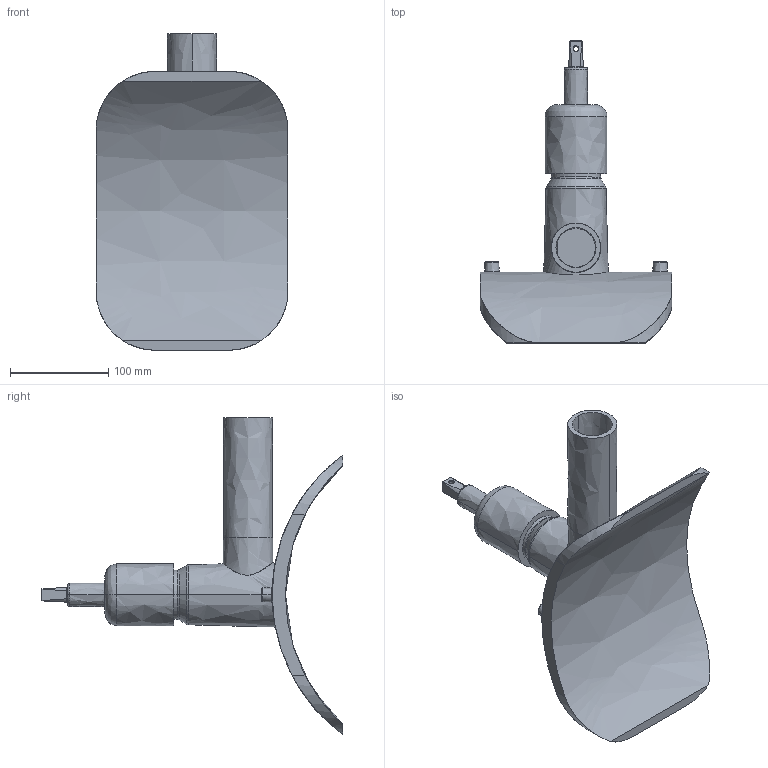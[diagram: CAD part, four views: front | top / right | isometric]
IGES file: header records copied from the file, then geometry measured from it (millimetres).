
Start section:  PTC IGES file: dav-tl_d355_dn50_01.igs
Global section: file name: dav-tl_d355_dn50_01.igs; native system: Pro/ENGINEER by Parametric Technology Corporation; preprocessor: 2011490; author: mtunjic; organization: Unknown; date: 20130909.102610; units: millimetre
Bounding box: 195 x 307.06 x 321.75 mm (x, y, z)
Surface area: 202174.6 mm2 (no closed solid volume)
Topology: 0 solids, 0 shells, 213 faces, 1046 edges, 1044 vertices
Faces by surface type: bspline 213
